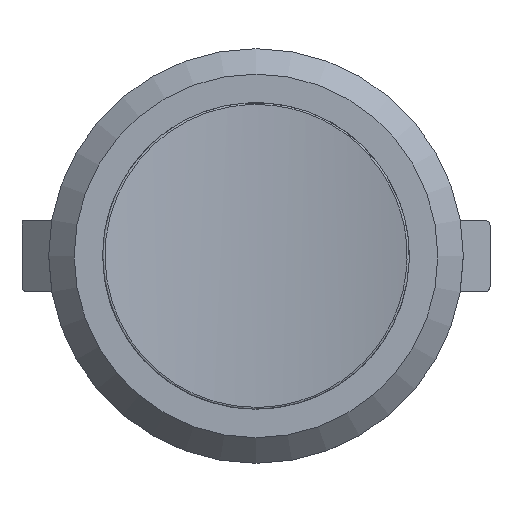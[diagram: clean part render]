
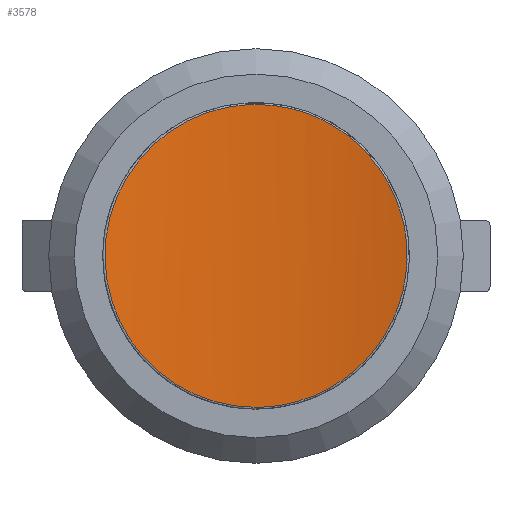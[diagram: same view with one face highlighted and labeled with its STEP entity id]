
A CAD part, top view. The second image highlights one B-rep face of the part: STEP entity #3578.
In plain terms, the highlighted cylindrical face has radius 36.625 mm (diameter 73.25 mm), a partial arc.
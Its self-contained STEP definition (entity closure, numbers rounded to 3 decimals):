
#943=CYLINDRICAL_SURFACE('',#3888,36.625);
#1021=FACE_OUTER_BOUND('',#1234,.T.);
#1234=EDGE_LOOP('',(#2497));
#1454=B_SPLINE_CURVE_WITH_KNOTS('',3,(#5519,#5520,#5521,#5522,#5523,#5524,
#5525,#5526,#5527,#5528,#5529,#5530,#5531,#5532,#5533),.UNSPECIFIED.,.T.,
 .F.,(4,1,1,1,1,1,1,1,1,1,1,1,4),(1.286,1.653,2.021,
2.388,2.755,3.49,3.735,4.225,
4.96,5.327,5.694,6.062,6.429),
 .UNSPECIFIED.);
#1604=VERTEX_POINT('',#5517);
#1951=EDGE_CURVE('',#1604,#1604,#1454,.T.);
#2497=ORIENTED_EDGE('',*,*,#1951,.F.);
#3578=ADVANCED_FACE('',(#1021),#943,.F.);
#3888=AXIS2_PLACEMENT_3D('',#5554,#4286,#4287);
#4286=DIRECTION('center_axis',(0.,1.,0.));
#4287=DIRECTION('ref_axis',(0.232,0.,-0.973));
#5517=CARTESIAN_POINT('',(0.001,-8.4,2.1));
#5519=CARTESIAN_POINT('Ctrl Pts',(0.001,-8.4,
2.1));
#5520=CARTESIAN_POINT('Ctrl Pts',(-1.256,-8.4,2.1));
#5521=CARTESIAN_POINT('Ctrl Pts',(-3.766,-7.823,2.238));
#5522=CARTESIAN_POINT('Ctrl Pts',(-6.771,-5.417,2.704));
#5523=CARTESIAN_POINT('Ctrl Pts',(-8.44,-1.951,3.086));
#5524=CARTESIAN_POINT('Ctrl Pts',(-8.463,3.255,3.087));
#5525=CARTESIAN_POINT('Ctrl Pts',(-5.328,7.189,2.383));
#5526=CARTESIAN_POINT('Ctrl Pts',(-0.464,8.68,2.029));
#5527=CARTESIAN_POINT('Ctrl Pts',(4.748,7.913,2.239));
#5528=CARTESIAN_POINT('Ctrl Pts',(8.467,3.255,3.094));
#5529=CARTESIAN_POINT('Ctrl Pts',(8.44,-1.946,3.084));
#5530=CARTESIAN_POINT('Ctrl Pts',(6.773,-5.415,2.706));
#5531=CARTESIAN_POINT('Ctrl Pts',(3.769,-7.821,2.237));
#5532=CARTESIAN_POINT('Ctrl Pts',(1.259,-8.4,2.1));
#5533=CARTESIAN_POINT('Ctrl Pts',(0.001,-8.4,
2.1));
#5554=CARTESIAN_POINT('Origin',(0.,-8.5,38.725));
